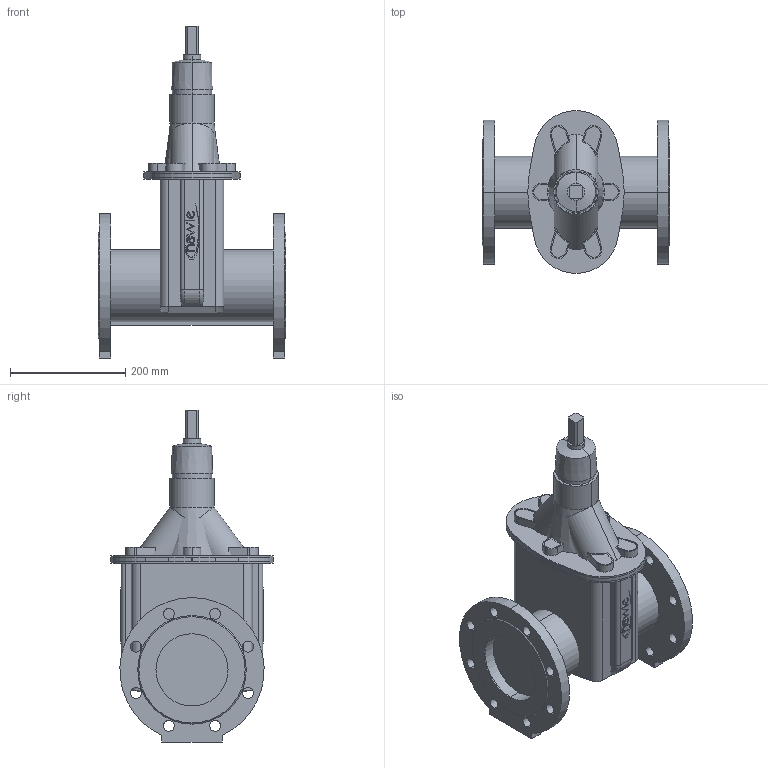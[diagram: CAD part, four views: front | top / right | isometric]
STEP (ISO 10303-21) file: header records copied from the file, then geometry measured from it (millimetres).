
FILE_DESCRIPTION(('STEP AP214'),'1');
FILE_NAME('S:/EK/USER/CAT6/3DHomepage/4700E2/4700E2-PN16-DN125.STP','2012-04-23T12:24:22',(' '),(' '),'Spatial InterOp 3D',' ',' ');
FILE_SCHEMA(('automotive_design'));
Length unit declared in the file: millimetre
Products named in the file (51): 3D-Objekt
Bounding box: 325 x 281.98 x 575 mm (x, y, z)
Volume: 12664125.8 mm3; surface area: 1136415.7 mm2
Topology: 51 solids, 51 shells, 484 faces, 1140 edges, 760 vertices
Faces by surface type: plane 250, cylinder 216, cone 10, bspline 4, torus 4
Entity records: 19247 total; most frequent: DIRECTION 2678, CARTESIAN_POINT 2503, ORIENTED_EDGE 2280, EDGE_CURVE 1140, AXIS2_PLACEMENT_3D 1007, VERTEX_POINT 760, LINE 664, VECTOR 664
